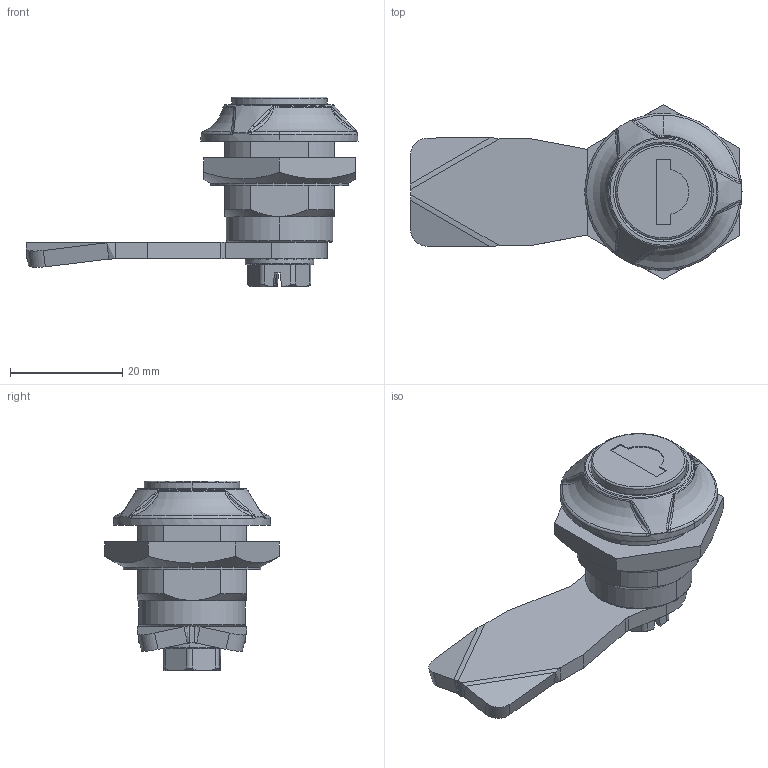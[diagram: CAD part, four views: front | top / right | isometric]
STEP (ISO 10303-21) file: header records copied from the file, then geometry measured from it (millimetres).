
FILE_DESCRIPTION (( 'STEP AP214' ), '1' );
FILE_NAME ('M22FW.STEP', '2016-09-08T09:10:50', ( '' ), ( '' ), 'SwSTEP 2.0', 'SolidWorks 2015', '' );
FILE_SCHEMA (( 'AUTOMOTIVE_DESIGN' ));
Length unit declared in the file: millimetre
Products named in the file (6): Wk³adka 1333_1333 IP; DIN 6921_M6x8; 1C.J-1XX.GH.L_#3, 1.00.18.45; 2.NKR_M22 - A1; 2.K.M22FW.001_A; M22FW
Assembly tree (5 placements, depth 2):
  M22FW
    2.K.M22FW.001_A
    2.NKR_M22 - A1
    1C.J-1XX.GH.L_#3, 1.00.18.45
    DIN 6921_M6x8
    Wk³adka 1333_1333 IP
Bounding box: 59.16 x 31.18 x 33.85 mm (x, y, z)
Volume: 12505.2 mm3; surface area: 9622.8 mm2
Topology: 5 solids, 5 shells, 403 faces, 1024 edges, 639 vertices
Faces by surface type: plane 187, cylinder 110, bspline 42, torus 35, cone 21, sphere 8
Entity records: 13532 total; most frequent: CARTESIAN_POINT 4077, ORIENTED_EDGE 2028, DIRECTION 1834, EDGE_CURVE 1014, AXIS2_PLACEMENT_3D 702, VERTEX_POINT 639, LINE 430, VECTOR 430
